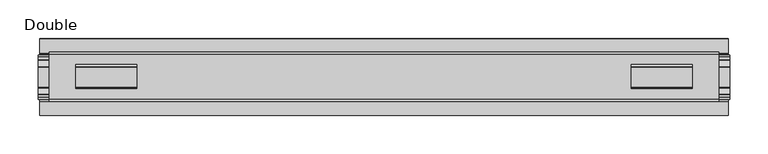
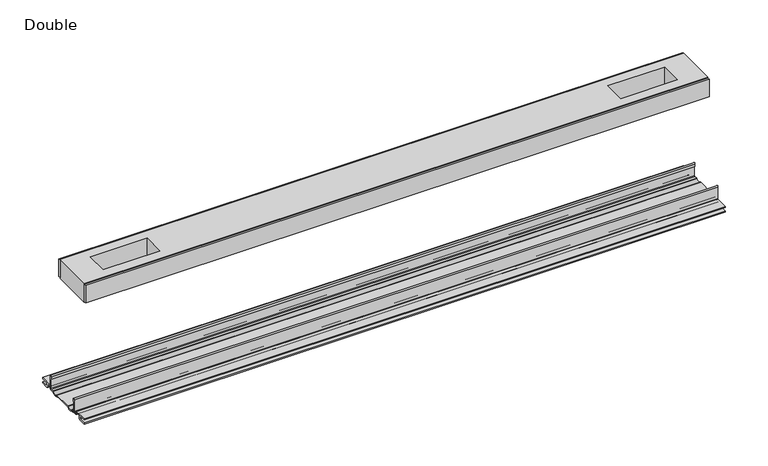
"""IFC4 building model written with IfcOpenShell, lengths in millimetres: proxy geometry, Frame-Teknion-FHCRA-Horizontal_Rail-R2022 : Double."""

from ifc_helpers import new_model, si_unit, point, frame, frame_2d, origin, place, context, project, spatial, polyline, circle_curve, trimmed, segment, composite_curve, outline, extrude, source, transform, mapped, element, save


def double_89b3f73d(model_context):
    return source(origin(), model_context, "Body", "SweptSolid", [
        extrude(outline(polyline([(434.9115091, 29.0068005), (-434.9115091, 29.0068005), (-434.9115091, 32.1817997), (434.9115091, 32.1817997), (434.9115091, 29.0068005)])), frame((0.0, 0.0, 149.8401622), z_axis=(0.0, 0.0, 1.0), x_axis=(1.0, 0.0, 0.0)), (0.0, 0.0, 1.0), 25.3999939),
        extrude(outline(polyline([(434.9115091, -32.1817997), (-434.9115091, -32.1817997), (-434.9115091, -29.0068005), (434.9115091, -29.0068005), (434.9115091, -32.1817997)])), frame((0.0, 0.0, 149.8401622), z_axis=(0.0, 0.0, 1.0), x_axis=(1.0, 0.0, 0.0)), (0.0, 0.0, 1.0), 25.3999939),
        extrude(outline(polyline([(434.9115091, -29.0068005), (-434.9115091, -29.0068005), (-434.9115091, 29.0068005), (434.9115091, 29.0068005), (434.9115091, -29.0068005)]), holes=[polyline([(400.4944965, -15.1130038), (400.4944965, 15.875003), (321.4496847, 15.875003), (321.4496847, -15.1130038), (400.4944965, -15.1130038)]), polyline([(-400.4944965, -15.1130038), (-321.4496847, -15.1130038), (-321.4496847, 15.875003), (-400.4944965, 15.875003), (-400.4944965, -15.1130038)])]), frame((0.0, 0.0, 148.4185847), z_axis=(0.0, 0.0, 1.0), x_axis=(1.0, 0.0, 0.0)), (0.0, 0.0, 1.0), 27.9999988),
        extrude(outline(composite_curve([segment(trimmed(circle_curve(frame_2d((26.6420561, -7.7516037)), 2.17424), [point((28.8162961, -7.7516037))], [point((26.6420561, -9.9258438))], False, "CARTESIAN"), True, "CONTINUOUS"), segment(polyline([(26.6420561, -9.9258438), (22.3510694, -9.9258438)]), True, "CONTINUOUS"), segment(trimmed(circle_curve(frame_2d((17.7706549, -6.4800016)), 5.7318431), [point((22.3510694, -9.9258438))], [point((13.1902404, -9.9258438))], False, "CARTESIAN"), True, "CONTINUOUS"), segment(polyline([(13.1902404, -9.9258438), (-13.57124, -9.9258438)]), True, "CONTINUOUS"), segment(trimmed(circle_curve(frame_2d((-18.1516545, -6.4800016)), 5.7318431), [point((-13.57124, -9.9258438))], [point((-22.732069, -9.9258438))], False, "CARTESIAN"), True, "CONTINUOUS"), segment(polyline([(-22.732069, -9.9258438), (-27.0230557, -9.9258438)]), True, "CONTINUOUS"), segment(trimmed(circle_curve(frame_2d((-27.0230557, -7.7516037)), 2.17424), [point((-27.0230557, -9.9258438))], [point((-29.1972958, -7.7516037))], False, "CARTESIAN"), True, "CONTINUOUS"), segment(polyline([(-29.1972958, -7.7516037), (-29.1972958, 9.8607558)]), True, "CONTINUOUS"), segment(trimmed(circle_curve(frame_2d((-27.9780978, 9.8607558)), 1.2191979), [point((-29.1972958, 9.8607558))], [point((-26.7588999, 9.8607558))], False, "CARTESIAN"), True, "CONTINUOUS"), segment(polyline([(-26.7588999, 9.8607558), (-26.7588999, 5.9999563), (-28.0390765, 5.9999563), (-28.0390765, -7.7516037)]), True, "CONTINUOUS"), segment(trimmed(circle_curve(frame_2d((-27.0230557, -7.7516037)), 1.0160208), [point((-28.0390765, -7.7516037))], [point((-27.0295728, -8.7676036))], True, "CARTESIAN"), True, "CONTINUOUS"), segment(polyline([(-27.0295728, -8.7676036), (-23.0866222, -8.7676036), (-22.1732605, -8.968753)]), True, "CONTINUOUS"), segment(trimmed(circle_curve(frame_2d((-18.1483018, -6.1259382)), 4.9276657), [point((-22.1732605, -8.968753))], [point((-14.123343, -8.968753))], True, "CARTESIAN"), True, "CONTINUOUS"), segment(polyline([(-14.123343, -8.968753), (-13.2099722, -8.7676036), (12.8289726, -8.7676036), (13.7423434, -8.968753)]), True, "CONTINUOUS"), segment(trimmed(circle_curve(frame_2d((17.7673021, -6.1259382)), 4.9276657), [point((13.7423434, -8.968753))], [point((21.7922609, -8.968753))], True, "CARTESIAN"), True, "CONTINUOUS"), segment(polyline([(21.7922609, -8.968753), (22.7056226, -8.7676036), (26.6485732, -8.7676036)]), True, "CONTINUOUS"), segment(trimmed(circle_curve(frame_2d((26.6420561, -7.7516037)), 1.0160208), [point((26.6485732, -8.7676036))], [point((27.6580769, -7.7516037))], True, "CARTESIAN"), True, "CONTINUOUS"), segment(polyline([(27.6580769, -7.7516037), (27.6580769, 5.9999563), (26.3779003, 5.9999563), (26.3779003, 9.8607558)]), True, "CONTINUOUS"), segment(trimmed(circle_curve(frame_2d((27.5970982, 9.8607558)), 1.2191979), [point((26.3779003, 9.8607558))], [point((28.8162961, 9.8607558))], False, "CARTESIAN"), True, "CONTINUOUS"), segment(polyline([(28.8162961, 9.8607558), (28.8162961, -7.7516037)]), True, "CONTINUOUS")], self_intersect=False)), frame((-448.9704, 0.0, 0.0), z_axis=(1.0, 0.0, 0.0), x_axis=(0.0, 1.0, 0.0)), (0.0, 0.0, 1.0), 897.9408),
        extrude(outline(composite_curve([segment(polyline([(50.2668422, -13.9898438), (39.6557522, -13.9898438)]), True, "CONTINUOUS"), segment(trimmed(circle_curve(frame_2d((39.6557522, -12.4658438)), 1.524), [point((39.6557522, -13.9898438))], [point((38.1317522, -12.4658438))], False, "CARTESIAN"), True, "CONTINUOUS"), segment(polyline([(38.1317522, -12.4658438), (38.1317522, -7.766844), (31.3054974, -7.766844), (31.3054974, -10.0528438)]), True, "CONTINUOUS"), segment(trimmed(circle_curve(frame_2d((29.7814974, -10.0528438)), 1.524), [point((31.3054974, -10.0528438))], [point((29.7814974, -11.5768438))], False, "CARTESIAN"), True, "CONTINUOUS"), segment(polyline([(29.7814974, -11.5768438), (23.2753553, -11.5768438)]), True, "CONTINUOUS"), segment(trimmed(circle_curve(frame_2d((17.7673021, -6.4968436)), 7.4930002), [point((23.2753553, -11.5768438))], [point((12.5094972, -11.8354331))], False, "CARTESIAN"), True, "CONTINUOUS"), segment(polyline([(12.5094972, -11.8354331), (-12.8904968, -11.8354331)]), True, "CONTINUOUS"), segment(trimmed(circle_curve(frame_2d((-18.1483018, -6.4968436)), 7.4930002), [point((-12.8904968, -11.8354331))], [point((-23.6563549, -11.5768438))], False, "CARTESIAN"), True, "CONTINUOUS"), segment(polyline([(-23.6563549, -11.5768438), (-30.1624971, -11.5768438)]), True, "CONTINUOUS"), segment(trimmed(circle_curve(frame_2d((-30.1624971, -10.0528438)), 1.524), [point((-30.1624971, -11.5768438))], [point((-31.686497, -10.0528438))], False, "CARTESIAN"), True, "CONTINUOUS"), segment(polyline([(-31.686497, -10.0528438), (-31.686497, -7.766844), (-38.5127519, -7.766844), (-38.5127519, -12.4658438)]), True, "CONTINUOUS"), segment(trimmed(circle_curve(frame_2d((-40.0367518, -12.4658438)), 1.524), [point((-38.5127519, -12.4658438))], [point((-40.0367518, -13.9898438))], False, "CARTESIAN"), True, "CONTINUOUS"), segment(polyline([(-40.0367518, -13.9898438), (-50.00625, -13.9898438), (-50.00625, -12.3388438), (-40.1637503, -12.3388438), (-40.1637503, -7.766844), (-50.00625, -7.766844), (-50.00625, -6.1158439), (-31.6239218, -6.1158439)]), True, "CONTINUOUS"), segment(trimmed(circle_curve(frame_2d((-31.6864982, -7.7656583)), 1.6510007), [point((-31.6239218, -6.1158439))], [point((-30.0354975, -7.7656583))], False, "CARTESIAN"), True, "CONTINUOUS"), segment(polyline([(-30.0354975, -7.7656583), (-30.0354975, -9.9258438), (-23.486834, -9.9258438)]), True, "CONTINUOUS"), segment(trimmed(circle_curve(frame_2d((-18.1483018, -5.2268471)), 7.1119966), [point((-23.486834, -9.9258438))], [point((-12.8097695, -9.9258438))], True, "CARTESIAN"), True, "CONTINUOUS"), segment(polyline([(-12.8097695, -9.9258438), (12.4287699, -9.9258438)]), True, "CONTINUOUS"), segment(trimmed(circle_curve(frame_2d((17.7673021, -5.2268471)), 7.1119966), [point((12.4287699, -9.9258438))], [point((23.1058344, -9.9258438))], True, "CARTESIAN"), True, "CONTINUOUS"), segment(polyline([(23.1058344, -9.9258438), (29.6544978, -9.9258438), (29.6544978, -7.6398436)]), True, "CONTINUOUS"), segment(trimmed(circle_curve(frame_2d((31.1784975, -7.6398436)), 1.5239997), [point((29.6544978, -7.6398436))], [point((31.1784975, -6.1158439))], False, "CARTESIAN"), True, "CONTINUOUS"), segment(polyline([(31.1784975, -6.1158439), (50.2668422, -6.1158439), (50.2240211, -7.766844), (39.7827507, -7.766844), (39.7827507, -12.3388438), (50.2240211, -12.3388438), (50.2668422, -13.9898438)]), True, "CONTINUOUS")], self_intersect=False)), frame((-447.3194, 0.0, 0.0), z_axis=(1.0, 0.0, 0.0), x_axis=(0.0, 1.0, 0.0)), (0.0, 0.0, 1.0), 894.6388),
    ])


if __name__ == "__main__":
    model = new_model("IFC4")
    model_context = context("Model", 3, world=origin())
    ifc_project = project(units=[si_unit("LENGTHUNIT", "METRE", prefix="MILLI")], contexts=[model_context])
    site = spatial("IfcSite", under=ifc_project)
    building = spatial("IfcBuilding", under=site)
    placement = place(None, origin())
    double_shape = double_89b3f73d(model_context)
    element("IfcBuildingElementProxy", 1, Name="Frame-Teknion-FHCRA-Horizontal_Rail-R2022 : Double", ObjectType="Frame-Teknion-FHCRA-Horizontal_Rail-R2022 : Double", at=placement, inside=building, context=model_context, shape_type="MappedRepresentation", body=[
        mapped(double_shape, transform((0.0, 0.0, 0.0), x_axis=(1.0, 0.0, 0.0), y_axis=(0.0, 1.0, 0.0), z_axis=(0.0, 0.0, 1.0))),
    ])
    save(model, "model.ifc")
